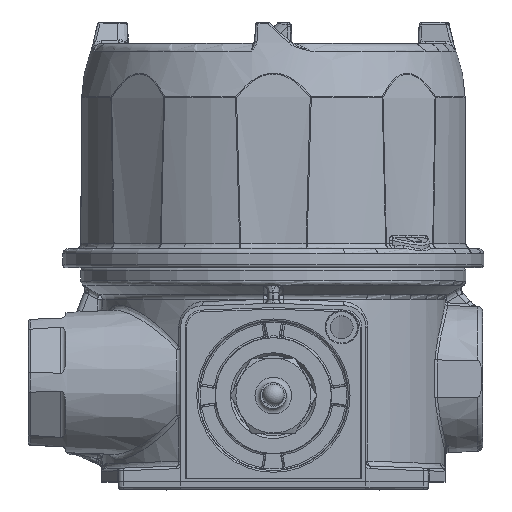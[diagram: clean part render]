
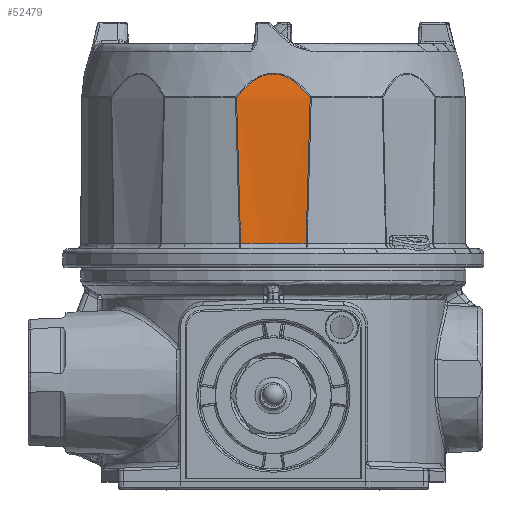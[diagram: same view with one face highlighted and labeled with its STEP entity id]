
A CAD part, top view. The second image highlights one B-rep face of the part: STEP entity #52479.
In plain terms, the highlighted conical face has half-angle 0.5 degrees and reference radius 83.16 mm.
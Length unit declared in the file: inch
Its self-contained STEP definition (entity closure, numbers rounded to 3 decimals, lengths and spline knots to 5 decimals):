
#992 = CARTESIAN_POINT ( 'NONE',  ( 0.10761, 4.8281, 2.20823 ) ) ;
#1886 = CARTESIAN_POINT ( 'NONE',  ( -0.38208, 2.87234, 2.2461 ) ) ;
#2149 = CARTESIAN_POINT ( 'NONE',  ( -0.20819, 4.78027, 2.21352 ) ) ;
#2521 = CARTESIAN_POINT ( 'NONE',  ( 0.39883, 3.43826, 2.24311 ) ) ;
#6379 = CARTESIAN_POINT ( 'NONE',  ( -0.40219, 4.60458, 2.2332 ) ) ;
#7904 = CARTESIAN_POINT ( 'NONE',  ( 0.37332, 4.63801, 2.22942 ) ) ;
#8325 = ORIENTED_EDGE ( 'NONE', *, *, #39994, .T. ) ;
#10988 = DIRECTION ( 'NONE',  ( 0., 0., -1. ) ) ;
#11127 = CARTESIAN_POINT ( 'NONE',  ( 0.38208, 2.87234, 2.2461 ) ) ;
#11496 = CARTESIAN_POINT ( 'NONE',  ( -0.38206, 2.87145, 2.24611 ) ) ;
#12115 = CARTESIAN_POINT ( 'NONE',  ( 0.05421, 4.84065, 2.20685 ) ) ;
#12254 = CARTESIAN_POINT ( 'NONE',  ( 0.38206, 2.87175, 2.24611 ) ) ;
#12493 = CARTESIAN_POINT ( 'NONE',  ( 0.27897, 4.72997, 2.21911 ) ) ;
#12527 = CARTESIAN_POINT ( 'NONE',  ( -0.39883, 3.43826, 2.24311 ) ) ;
#13248 = EDGE_CURVE ( 'NONE', #35038, #33041, #43187, .T. ) ;
#13295 = CARTESIAN_POINT ( 'NONE',  ( -0.4145, 4.0042, 2.24011 ) ) ;
#13637 = CARTESIAN_POINT ( 'NONE',  ( 0.01011, 4.84494, 2.20638 ) ) ;
#13832 = EDGE_CURVE ( 'NONE', #33041, #63152, #38432, .T. ) ;
#14025 = CARTESIAN_POINT ( 'NONE',  ( 0.38208, 2.87234, 2.2461 ) ) ;
#15164 = CARTESIAN_POINT ( 'NONE',  ( 0.4145, 4.0042, 2.24011 ) ) ;
#17852 = CARTESIAN_POINT ( 'NONE',  ( -0.22665, 4.76816, 2.21486 ) ) ;
#18309 = B_SPLINE_CURVE_WITH_KNOTS ( 'NONE', 3,
 ( #70891, #12254, #29897, #11127 ),
 .UNSPECIFIED., .F., .F.,
 ( 4, 4 ),
 ( 0., 0.00002 ),
 .UNSPECIFIED. ) ;
#19370 = CARTESIAN_POINT ( 'NONE',  ( 0.02129, 4.84441, 2.20643 ) ) ;
#20084 = DIRECTION ( 'NONE',  ( 0., 1., 0. ) ) ;
#21951 = ORIENTED_EDGE ( 'NONE', *, *, #39809, .T. ) ;
#24359 = CARTESIAN_POINT ( 'NONE',  ( -0.10939, 4.82751, 2.2083 ) ) ;
#24421 = ORIENTED_EDGE ( 'NONE', *, *, #13248, .T. ) ;
#25125 = CARTESIAN_POINT ( 'NONE',  ( -0.17008, 4.8019, 2.21112 ) ) ;
#25939 = AXIS2_PLACEMENT_3D ( 'NONE', #62229, #20084, #44222 ) ;
#29897 = CARTESIAN_POINT ( 'NONE',  ( 0.38207, 2.87205, 2.24611 ) ) ;
#30686 = VERTEX_POINT ( 'NONE', #74594 ) ;
#31281 = CARTESIAN_POINT ( 'NONE',  ( -0.15039, 4.81148, 2.21007 ) ) ;
#32812 = ORIENTED_EDGE ( 'NONE', *, *, #50544, .T. ) ;
#33041 = VERTEX_POINT ( 'NONE', #61618 ) ;
#35038 = VERTEX_POINT ( 'NONE', #35716 ) ;
#35512 = CARTESIAN_POINT ( 'NONE',  ( -0.31254, 4.69988, 2.22247 ) ) ;
#35640 = VERTEX_POINT ( 'NONE', #49397 ) ;
#35716 = CARTESIAN_POINT ( 'NONE',  ( -0.42941, 4.57016, 2.23711 ) ) ;
#36273 = CARTESIAN_POINT ( 'NONE',  ( 0.16907, 4.80243, 2.21107 ) ) ;
#36404 = CARTESIAN_POINT ( 'NONE',  ( -0.38207, 2.87205, 2.24611 ) ) ;
#36687 = CARTESIAN_POINT ( 'NONE',  ( -0.38208, 2.87234, 2.2461 ) ) ;
#38432 = B_SPLINE_CURVE_WITH_KNOTS ( 'NONE', 3,
 ( #1886, #36404, #53237, #60524 ),
 .UNSPECIFIED., .F., .F.,
 ( 4, 4 ),
 ( 0., 0.00002 ),
 .UNSPECIFIED. ) ;
#39241 = FACE_OUTER_BOUND ( 'NONE', #56310, .T. ) ;
#39362 = CIRCLE ( 'NONE', #61466, 3.25367 ) ;
#39809 = EDGE_CURVE ( 'NONE', #63152, #41423, #39362, .T. ) ;
#39994 = EDGE_CURVE ( 'NONE', #30686, #35640, #53063, .T. ) ;
#41246 = CARTESIAN_POINT ( 'NONE',  ( -0.28008, 4.72908, 2.21921 ) ) ;
#41423 = VERTEX_POINT ( 'NONE', #51558 ) ;
#43187 = B_SPLINE_CURVE_WITH_KNOTS ( 'NONE', 3,
 ( #65031, #13295, #12527, #36687 ),
 .UNSPECIFIED., .F., .F.,
 ( 4, 4 ),
 ( 0., 0.04314 ),
 .UNSPECIFIED. ) ;
#44222 = DIRECTION ( 'NONE',  ( 0., 0., -1. ) ) ;
#44671 = CARTESIAN_POINT ( 'NONE',  ( 0.42941, 4.57016, 2.23711 ) ) ;
#45563 = B_SPLINE_CURVE_WITH_KNOTS ( 'NONE', 3,
 ( #65766, #71896, #7904, #48907, #12493, #54263, #59247, #36273, #53499, #992, #48526, #12115, #71119, #19370, #13637, #60003, #60392, #48143, #24359, #31281, #25125, #2149, #17852, #41246, #35512, #58859, #6379, #53109 ),
 .UNSPECIFIED., .F., .F.,
 ( 4, 2, 2, 2, 2, 2, 2, 2, 2, 2, 2, 2, 2, 4 ),
 ( 0., 0.00336, 0.00673, 0.00841, 0.01009, 0.01177, 0.01261, 0.01345, 0.01514, 0.01682, 0.0185, 0.02018, 0.02355, 0.02691 ),
 .UNSPECIFIED. ) ;
#46634 = DIRECTION ( 'NONE',  ( 0., -1., 0. ) ) ;
#47971 = EDGE_CURVE ( 'NONE', #41423, #30686, #18309, .T. ) ;
#48143 = CARTESIAN_POINT ( 'NONE',  ( -0.08794, 4.83395, 2.20759 ) ) ;
#48526 = CARTESIAN_POINT ( 'NONE',  ( 0.08653, 4.83432, 2.20755 ) ) ;
#48907 = CARTESIAN_POINT ( 'NONE',  ( 0.31159, 4.70079, 2.22237 ) ) ;
#49397 = CARTESIAN_POINT ( 'NONE',  ( 0.42941, 4.57016, 2.23711 ) ) ;
#50544 = EDGE_CURVE ( 'NONE', #35640, #35038, #45563, .T. ) ;
#51558 = CARTESIAN_POINT ( 'NONE',  ( 0.38206, 2.87145, 2.24611 ) ) ;
#52007 = ORIENTED_EDGE ( 'NONE', *, *, #47971, .T. ) ;
#52479 = ADVANCED_FACE ( 'NONE', ( #39241 ), #61421, .F. ) ;
#53063 = B_SPLINE_CURVE_WITH_KNOTS ( 'NONE', 3,
 ( #14025, #2521, #15164, #44671 ),
 .UNSPECIFIED., .F., .F.,
 ( 4, 4 ),
 ( 0., 0.04314 ),
 .UNSPECIFIED. ) ;
#53109 = CARTESIAN_POINT ( 'NONE',  ( -0.42941, 4.57016, 2.23711 ) ) ;
#53115 = CARTESIAN_POINT ( 'NONE',  ( 0., 2.87145, 5.47727 ) ) ;
#53237 = CARTESIAN_POINT ( 'NONE',  ( -0.38206, 2.87175, 2.24611 ) ) ;
#53499 = CARTESIAN_POINT ( 'NONE',  ( 0.14896, 4.81213, 2.20999 ) ) ;
#54263 = CARTESIAN_POINT ( 'NONE',  ( 0.22595, 4.76863, 2.21481 ) ) ;
#54772 = ORIENTED_EDGE ( 'NONE', *, *, #13832, .T. ) ;
#56310 = EDGE_LOOP ( 'NONE', ( #21951, #52007, #8325, #32812, #24421, #54772 ) ) ;
#58859 = CARTESIAN_POINT ( 'NONE',  ( -0.37362, 4.63765, 2.22946 ) ) ;
#59247 = CARTESIAN_POINT ( 'NONE',  ( 0.20759, 4.78065, 2.21348 ) ) ;
#60003 = CARTESIAN_POINT ( 'NONE',  ( -0.02303, 4.84485, 2.20639 ) ) ;
#60392 = CARTESIAN_POINT ( 'NONE',  ( -0.04485, 4.84258, 2.20664 ) ) ;
#60524 = CARTESIAN_POINT ( 'NONE',  ( -0.38206, 2.87145, 2.24611 ) ) ;
#61421 = CONICAL_SURFACE ( 'NONE', #25939, 3.274, 0.009 ) ;
#61466 = AXIS2_PLACEMENT_3D ( 'NONE', #53115, #46634, #10988 ) ;
#61618 = CARTESIAN_POINT ( 'NONE',  ( -0.38208, 2.87234, 2.2461 ) ) ;
#62229 = CARTESIAN_POINT ( 'NONE',  ( 0., 5.201, 5.47727 ) ) ;
#63152 = VERTEX_POINT ( 'NONE', #11496 ) ;
#65031 = CARTESIAN_POINT ( 'NONE',  ( -0.42941, 4.57016, 2.23711 ) ) ;
#65766 = CARTESIAN_POINT ( 'NONE',  ( 0.42941, 4.57016, 2.23711 ) ) ;
#70891 = CARTESIAN_POINT ( 'NONE',  ( 0.38206, 2.87145, 2.24611 ) ) ;
#71119 = CARTESIAN_POINT ( 'NONE',  ( 0.04332, 4.84226, 2.20667 ) ) ;
#71896 = CARTESIAN_POINT ( 'NONE',  ( 0.40211, 4.60468, 2.23319 ) ) ;
#74594 = CARTESIAN_POINT ( 'NONE',  ( 0.38208, 2.87234, 2.2461 ) ) ;
